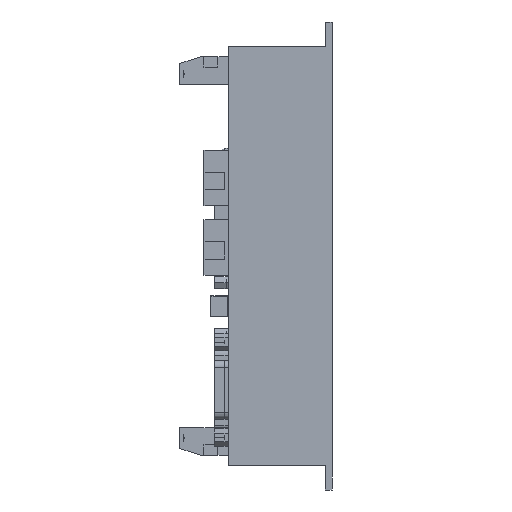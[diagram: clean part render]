
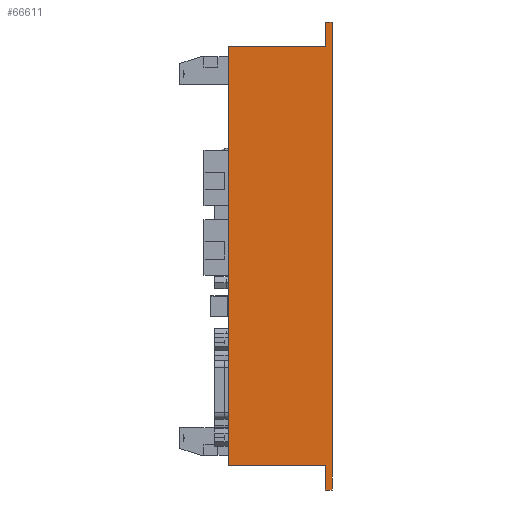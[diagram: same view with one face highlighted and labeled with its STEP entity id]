
A CAD part, left-side view. The second image highlights one B-rep face of the part: STEP entity #66611.
In plain terms, the highlighted planar face has unit normal (-1, 0, 0).
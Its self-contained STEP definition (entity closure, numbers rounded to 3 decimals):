
#400 = VERTEX_POINT ( 'NONE', #48915 ) ;
#599 = CARTESIAN_POINT ( 'NONE',  ( 0., 2., -59.297 ) ) ;
#1723 = EDGE_CURVE ( 'NONE', #400, #68358, #8758, .T. ) ;
#3000 = CARTESIAN_POINT ( 'NONE',  ( 0., 2., -52.297 ) ) ;
#5990 = VECTOR ( 'NONE', #13901, 1000. ) ;
#6285 = CARTESIAN_POINT ( 'NONE',  ( 0., 30., -52.297 ) ) ;
#6562 = CARTESIAN_POINT ( 'NONE',  ( 0., 2., 75.703 ) ) ;
#6961 = VECTOR ( 'NONE', #43290, 1000. ) ;
#6981 = PLANE ( 'NONE',  #60405 ) ;
#8127 = CARTESIAN_POINT ( 'NONE',  ( 0., 30., 68.703 ) ) ;
#8758 = LINE ( 'NONE', #6562, #42993 ) ;
#9622 = VECTOR ( 'NONE', #46693, 1000. ) ;
#10864 = LINE ( 'NONE', #14479, #39693 ) ;
#12040 = DIRECTION ( 'NONE',  ( 0., 0., 1. ) ) ;
#12493 = VERTEX_POINT ( 'NONE', #65192 ) ;
#12740 = DIRECTION ( 'NONE',  ( 1., 0., 0. ) ) ;
#13901 = DIRECTION ( 'NONE',  ( 0., -1., 0. ) ) ;
#14042 = LINE ( 'NONE', #6285, #58197 ) ;
#14479 = CARTESIAN_POINT ( 'NONE',  ( 0., 2., 68.703 ) ) ;
#15285 = CARTESIAN_POINT ( 'NONE',  ( 0., 0., -59.297 ) ) ;
#16748 = VERTEX_POINT ( 'NONE', #43754 ) ;
#18940 = DIRECTION ( 'NONE',  ( 0., 1., 0. ) ) ;
#23517 = EDGE_CURVE ( 'NONE', #38422, #36070, #55540, .T. ) ;
#24075 = EDGE_LOOP ( 'NONE', ( #39744, #61521, #46506, #31989, #74665, #39818, #58576, #51521 ) ) ;
#24362 = LINE ( 'NONE', #27948, #53161 ) ;
#24759 = CARTESIAN_POINT ( 'NONE',  ( 0., 0., -59.297 ) ) ;
#27948 = CARTESIAN_POINT ( 'NONE',  ( 0., 0., 75.703 ) ) ;
#30237 = CARTESIAN_POINT ( 'NONE',  ( 0., 0., 75.703 ) ) ;
#31989 = ORIENTED_EDGE ( 'NONE', *, *, #58176, .F. ) ;
#32732 = CARTESIAN_POINT ( 'NONE',  ( 0., 2., 68.703 ) ) ;
#34608 = EDGE_CURVE ( 'NONE', #16748, #12493, #51137, .T. ) ;
#36070 = VERTEX_POINT ( 'NONE', #32732 ) ;
#38422 = VERTEX_POINT ( 'NONE', #58841 ) ;
#39693 = VECTOR ( 'NONE', #60539, 1000. ) ;
#39744 = ORIENTED_EDGE ( 'NONE', *, *, #1723, .F. ) ;
#39818 = ORIENTED_EDGE ( 'NONE', *, *, #47629, .F. ) ;
#40633 = VECTOR ( 'NONE', #18940, 1000. ) ;
#42993 = VECTOR ( 'NONE', #52633, 1000. ) ;
#43290 = DIRECTION ( 'NONE',  ( 0., 1., 0. ) ) ;
#43754 = CARTESIAN_POINT ( 'NONE',  ( 0., 2., -52.297 ) ) ;
#45186 = EDGE_CURVE ( 'NONE', #72990, #59165, #55957, .T. ) ;
#46506 = ORIENTED_EDGE ( 'NONE', *, *, #23517, .F. ) ;
#46658 = CARTESIAN_POINT ( 'NONE',  ( 0., 2., -59.297 ) ) ;
#46693 = DIRECTION ( 'NONE',  ( 0., 0., 1. ) ) ;
#47629 = EDGE_CURVE ( 'NONE', #59165, #16748, #53784, .T. ) ;
#48915 = CARTESIAN_POINT ( 'NONE',  ( 0., 2., 75.703 ) ) ;
#51137 = LINE ( 'NONE', #3000, #6961 ) ;
#51521 = ORIENTED_EDGE ( 'NONE', *, *, #67446, .F. ) ;
#52633 = DIRECTION ( 'NONE',  ( 0., -1., 0. ) ) ;
#53068 = DIRECTION ( 'NONE',  ( 0., 0., -1. ) ) ;
#53161 = VECTOR ( 'NONE', #62428, 1000. ) ;
#53784 = LINE ( 'NONE', #599, #9622 ) ;
#54780 = EDGE_CURVE ( 'NONE', #36070, #400, #10864, .T. ) ;
#55540 = LINE ( 'NONE', #8127, #5990 ) ;
#55957 = LINE ( 'NONE', #24759, #40633 ) ;
#58078 = CARTESIAN_POINT ( 'NONE',  ( 0., 0., 0. ) ) ;
#58176 = EDGE_CURVE ( 'NONE', #12493, #38422, #14042, .T. ) ;
#58197 = VECTOR ( 'NONE', #12040, 1000. ) ;
#58576 = ORIENTED_EDGE ( 'NONE', *, *, #45186, .F. ) ;
#58841 = CARTESIAN_POINT ( 'NONE',  ( 0., 30., 68.703 ) ) ;
#59165 = VERTEX_POINT ( 'NONE', #46658 ) ;
#59555 = FACE_OUTER_BOUND ( 'NONE', #24075, .T. ) ;
#60405 = AXIS2_PLACEMENT_3D ( 'NONE', #58078, #12740, #53068 ) ;
#60539 = DIRECTION ( 'NONE',  ( 0., 0., 1. ) ) ;
#61521 = ORIENTED_EDGE ( 'NONE', *, *, #54780, .F. ) ;
#62428 = DIRECTION ( 'NONE',  ( 0., 0., -1. ) ) ;
#65192 = CARTESIAN_POINT ( 'NONE',  ( 0., 30., -52.297 ) ) ;
#66611 = ADVANCED_FACE ( 'NONE', ( #59555 ), #6981, .F. ) ;
#67446 = EDGE_CURVE ( 'NONE', #68358, #72990, #24362, .T. ) ;
#68358 = VERTEX_POINT ( 'NONE', #30237 ) ;
#72990 = VERTEX_POINT ( 'NONE', #15285 ) ;
#74665 = ORIENTED_EDGE ( 'NONE', *, *, #34608, .F. ) ;
